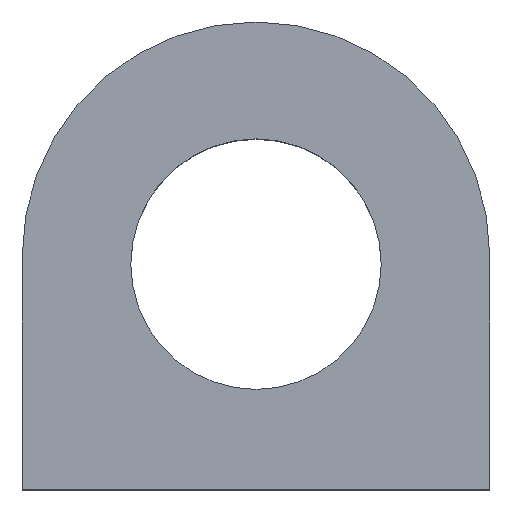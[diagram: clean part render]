
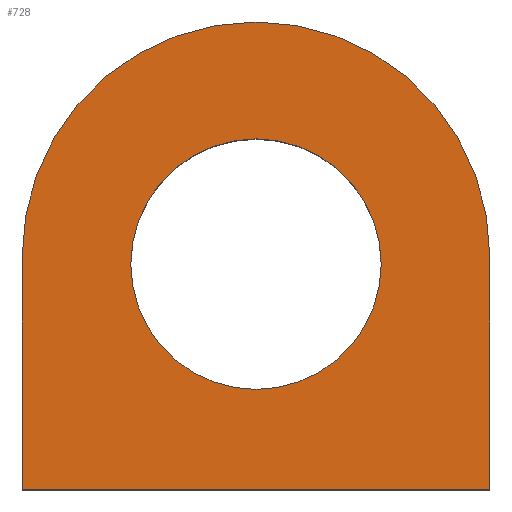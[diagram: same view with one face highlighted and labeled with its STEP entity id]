
A CAD part, top view. The second image highlights one B-rep face of the part: STEP entity #728.
In plain terms, the highlighted planar face has unit normal (0, 0, 1).
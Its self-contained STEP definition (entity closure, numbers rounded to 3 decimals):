
#2 = DIRECTION ( 'NONE',  ( 0., -1., 0. ) ) ;
#8 = DIRECTION ( 'NONE',  ( 0., 1., 0. ) ) ;
#10 = DIRECTION ( 'NONE',  ( 0., 0., 1. ) ) ;
#13 = ORIENTED_EDGE ( 'NONE', *, *, #143, .T. ) ;
#17 = CARTESIAN_POINT ( 'NONE',  ( 6.5, 13.5, 15. ) ) ;
#19 = CARTESIAN_POINT ( 'NONE',  ( 28., 14., 15. ) ) ;
#57 = EDGE_LOOP ( 'NONE', ( #237, #294 ) ) ;
#58 = VECTOR ( 'NONE', #71, 1000. ) ;
#66 = DIRECTION ( 'NONE',  ( -1., 0., 0. ) ) ;
#71 = DIRECTION ( 'NONE',  ( 1., 0., 0. ) ) ;
#74 = ORIENTED_EDGE ( 'NONE', *, *, #424, .T. ) ;
#76 = DIRECTION ( 'NONE',  ( -1., 0., 0. ) ) ;
#101 = VERTEX_POINT ( 'NONE', #813 ) ;
#115 = DIRECTION ( 'NONE',  ( 0., 0., -1. ) ) ;
#117 = CARTESIAN_POINT ( 'NONE',  ( 0., 14., 15. ) ) ;
#140 = CIRCLE ( 'NONE', #639, 7.5 ) ;
#141 = ORIENTED_EDGE ( 'NONE', *, *, #316, .T. ) ;
#143 = EDGE_CURVE ( 'NONE', #545, #574, #798, .T. ) ;
#144 = DIRECTION ( 'NONE',  ( 1., 0., 0. ) ) ;
#211 = CIRCLE ( 'NONE', #353, 7.5 ) ;
#219 = VERTEX_POINT ( 'NONE', #224 ) ;
#224 = CARTESIAN_POINT ( 'NONE',  ( 28., 0., 15. ) ) ;
#237 = ORIENTED_EDGE ( 'NONE', *, *, #359, .F. ) ;
#242 = DIRECTION ( 'NONE',  ( 0., 0., 1. ) ) ;
#245 = PLANE ( 'NONE',  #734 ) ;
#271 = LINE ( 'NONE', #766, #58 ) ;
#272 = CARTESIAN_POINT ( 'NONE',  ( 14., 13.5, 15. ) ) ;
#294 = ORIENTED_EDGE ( 'NONE', *, *, #667, .F. ) ;
#316 = EDGE_CURVE ( 'NONE', #574, #219, #271, .T. ) ;
#331 = CARTESIAN_POINT ( 'NONE',  ( 14., 14., 15. ) ) ;
#344 = ORIENTED_EDGE ( 'NONE', *, *, #402, .T. ) ;
#353 = AXIS2_PLACEMENT_3D ( 'NONE', #272, #715, #144 ) ;
#359 = EDGE_CURVE ( 'NONE', #469, #101, #211, .T. ) ;
#376 = FACE_OUTER_BOUND ( 'NONE', #612, .T. ) ;
#402 = EDGE_CURVE ( 'NONE', #219, #482, #594, .T. ) ;
#424 = EDGE_CURVE ( 'NONE', #482, #545, #674, .T. ) ;
#426 = DIRECTION ( 'NONE',  ( 1., 0., 0. ) ) ;
#452 = CARTESIAN_POINT ( 'NONE',  ( 28., 0., 15. ) ) ;
#457 = VECTOR ( 'NONE', #8, 1000. ) ;
#469 = VERTEX_POINT ( 'NONE', #17 ) ;
#470 = FACE_BOUND ( 'NONE', #57, .T. ) ;
#482 = VERTEX_POINT ( 'NONE', #19 ) ;
#499 = CARTESIAN_POINT ( 'NONE',  ( 0., 0., 15. ) ) ;
#545 = VERTEX_POINT ( 'NONE', #117 ) ;
#574 = VERTEX_POINT ( 'NONE', #816 ) ;
#594 = LINE ( 'NONE', #452, #457 ) ;
#612 = EDGE_LOOP ( 'NONE', ( #13, #141, #344, #74 ) ) ;
#639 = AXIS2_PLACEMENT_3D ( 'NONE', #748, #242, #426 ) ;
#667 = EDGE_CURVE ( 'NONE', #101, #469, #140, .T. ) ;
#671 = VECTOR ( 'NONE', #2, 1000. ) ;
#674 = CIRCLE ( 'NONE', #807, 14. ) ;
#715 = DIRECTION ( 'NONE',  ( 0., 0., 1. ) ) ;
#728 = ADVANCED_FACE ( 'NONE', ( #376, #470 ), #245, .F. ) ;
#734 = AXIS2_PLACEMENT_3D ( 'NONE', #752, #115, #66 ) ;
#748 = CARTESIAN_POINT ( 'NONE',  ( 14., 13.5, 15. ) ) ;
#752 = CARTESIAN_POINT ( 'NONE',  ( 14., 14., 15. ) ) ;
#766 = CARTESIAN_POINT ( 'NONE',  ( 0., 0., 15. ) ) ;
#798 = LINE ( 'NONE', #499, #671 ) ;
#807 = AXIS2_PLACEMENT_3D ( 'NONE', #331, #10, #76 ) ;
#813 = CARTESIAN_POINT ( 'NONE',  ( 21.5, 13.5, 15. ) ) ;
#816 = CARTESIAN_POINT ( 'NONE',  ( 0., 0., 15. ) ) ;
